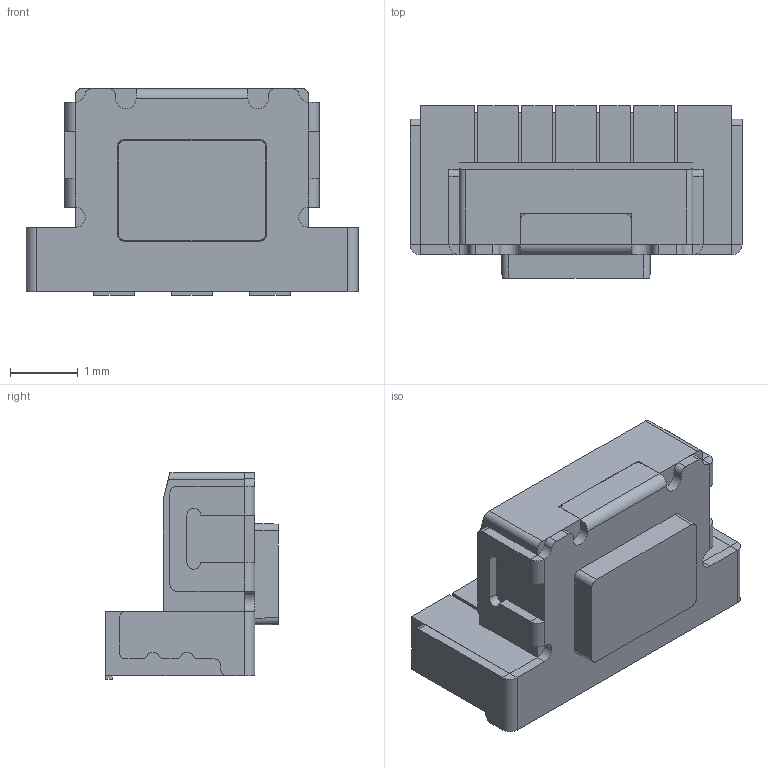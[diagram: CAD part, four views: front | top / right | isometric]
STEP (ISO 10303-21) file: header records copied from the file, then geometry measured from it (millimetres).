
FILE_DESCRIPTION((''),'2;1');
FILE_NAME('JQD3049-C0261-01AEG-1-105_ASM','2026-05-21T17:10:22',('Admin'),(''),'CREO PARAMETRIC BY PTC INC, 2019224','CREO PARAMETRIC BY PTC INC, 2019224','');
FILE_SCHEMA(('AUTOMOTIVE_DESIGN { 1 0 10303 214 1 1 1 1 }'));
Length unit declared in the file: millimetre
Products named in the file (3): JQD3049-C0261-01AEG-1-105_01; JQD3049-C0261-01AEG-1-105_02; JQD3049-C0261-01AEG-1-105_ASM
Assembly tree (2 placements, depth 2):
  JQD3049-C0261-01AEG-1-105_ASM
    JQD3049-C0261-01AEG-1-105_01
    JQD3049-C0261-01AEG-1-105_02
Bounding box: 4.9 x 2.55 x 3.05 mm (x, y, z)
Volume: 20.9 mm3; surface area: 90.5 mm2
Topology: 2 solids, 2 shells, 202 faces, 532 edges, 334 vertices
Faces by surface type: plane 145, cylinder 57
Entity records: 7239 total; most frequent: CARTESIAN_POINT 1131, ORIENTED_EDGE 1064, DIRECTION 1044, EDGE_CURVE 532, VECTOR 418, LINE 418, VERTEX_POINT 334, AXIS2_PLACEMENT_3D 313
